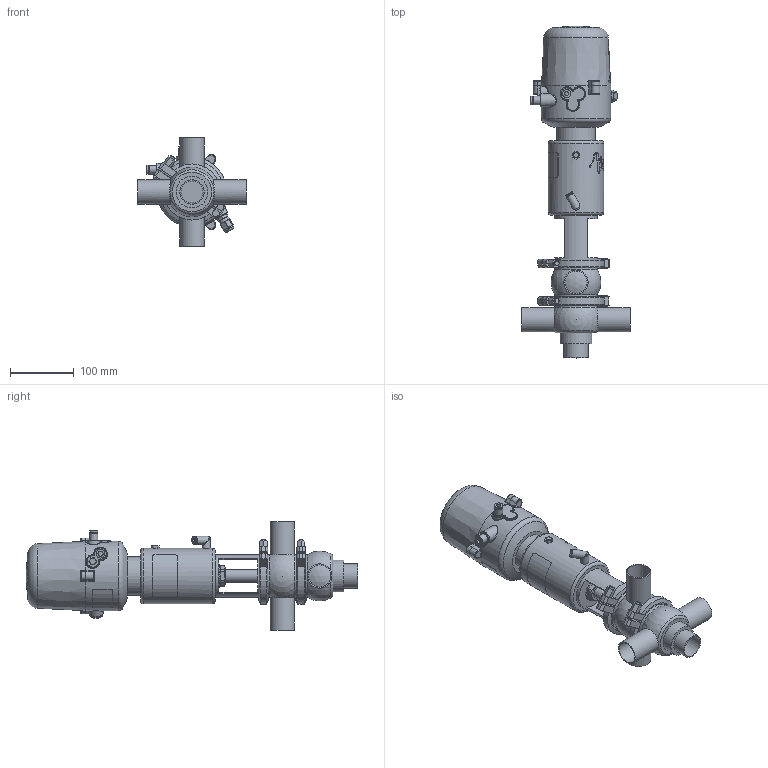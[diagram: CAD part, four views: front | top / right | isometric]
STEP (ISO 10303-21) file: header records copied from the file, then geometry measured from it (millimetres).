
FILE_DESCRIPTION (( 'STEP AP214' ), '1' );
FILE_NAME ('INNOVA K G W OD 1½ T1 AS NC & C-TOP S_10.240.16.0082.STEP', '2024-08-06T09:05:29', ( '' ), ( '' ), 'SwSTEP 2.0', 'SolidWorks 2023', '' );
FILE_SCHEMA (( 'AUTOMOTIVE_DESIGN' ));
Length unit declared in the file: millimetre
Products named in the file (8): 10.240.15.0017_Estàndard; 10.240.15.0001_DN 040; INNOVA K G W OD 1½ T1 AS NC & C-TOP S_10.240.16.0082; 10.240.15.0007_OD 1½"; 10.426.15.0001_C-TOP S - 1 EV; 10.240.15.0014_T1 AS P0; 10.240.15.0003_OD 1½"; 10.240.15.0010_DN 040
Assembly tree (8 placements, depth 2):
  INNOVA K G W OD 1½ T1 AS NC & C-TOP S_10.240.16.0082
    10.240.15.0007_OD 1½"
    10.240.15.0003_OD 1½"
    10.240.15.0010_DN 040
    10.240.15.0014_T1 AS P0
    10.240.15.0017_Estàndard
    10.426.15.0001_C-TOP S - 1 EV
    10.240.15.0001_DN 040  x2
Bounding box: 170 x 521.5 x 170 mm (x, y, z)
Volume: 2842458 mm3; surface area: 299751.2 mm2
Topology: 8 solids, 8 shells, 1182 faces, 2853 edges, 1900 vertices
Faces by surface type: plane 412, cylinder 360, cone 201, bspline 160, torus 39, sphere 10
Full cylindrical faces by diameter (mm): 0.371 x17, 0.512 x16, 0.658 x16, 0.795 x16, 0.94 x15, 1.098 x15, 1.241 x13, 1.382 x13, 1.523 x11, 1.669 x10, 2.201 x1, 4 x2, 5.5 x2, 6 x2, 6.15 x1, 8 x6, 8.5 x1, 10 x1, 10.5 x1, 11 x2, 12.5 x3, 13 x2, 13.5 x2, 16 x1, 17 x3, 20 x3, 20.5 x1, 22 x2, 31 x1, 34.5 x3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
Entity records: 57191 total; most frequent: CARTESIAN_POINT 26810, ORIENTED_EDGE 4538, DIRECTION 3689, EDGE_CURVE 2269, VERTEX_POINT 1616, EDGE_LOOP 1587, AXIS2_PLACEMENT_3D 1516, FACE_OUTER_BOUND 1345
